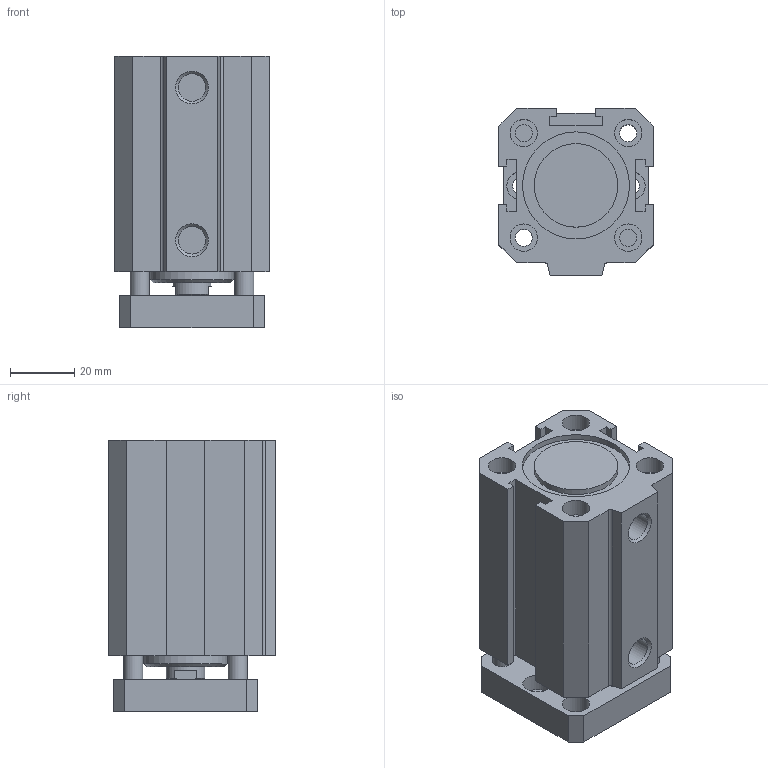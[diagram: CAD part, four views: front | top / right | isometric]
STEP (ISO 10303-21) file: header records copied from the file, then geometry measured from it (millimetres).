
FILE_DESCRIPTION(/* description */ (''),/* implementation_level */ '2;1');
FILE_NAME(/* name */ 'I:\Area Tecnica\Disegni\VARIE-3D\Componenti\1500\Ø32\15##_32_####_#\1501_32_0035_AR.stp',/* time_stamp */ '2016-08-24T11:28:44+02:00',/* author */ ('Maniean1'),/* organization */ ('Pneumax S.p.A.'),/* preprocessor_version */ 'ST-DEVELOPER v15.2',/* originating_system */ 'Autodesk Inventor 2014',/* authorisation */ '');
FILE_SCHEMA (('AUTOMOTIVE_DESIGN { 1 0 10303 214 3 1 1 }'));
Length unit declared in the file: millimetre
Products named in the file (3): C_1501_32_0035_AR; S_1501_32_0035_AR; 1501_32_0035_AR
Bounding box: 48 x 52 x 84.5 mm (x, y, z)
Volume: 128496.7 mm3; surface area: 47221.1 mm2
Topology: 2 solids, 2 shells, 113 faces, 261 edges, 174 vertices
Faces by surface type: plane 74, cylinder 34, cone 5
Full cylindrical faces by diameter (mm): 4.134 x2, 5.3 x4, 5.5 x2, 6 x4, 8.5 x8, 8.566 x2, 9 x2, 12 x2, 26 x2, 32 x2, 33.3 x2
Entity records: 3153 total; most frequent: DIRECTION 530, CARTESIAN_POINT 518, ORIENTED_EDGE 444, EDGE_CURVE 222, AXIS2_PLACEMENT_3D 194, EDGE_LOOP 190, VERTEX_POINT 170, LINE 142
